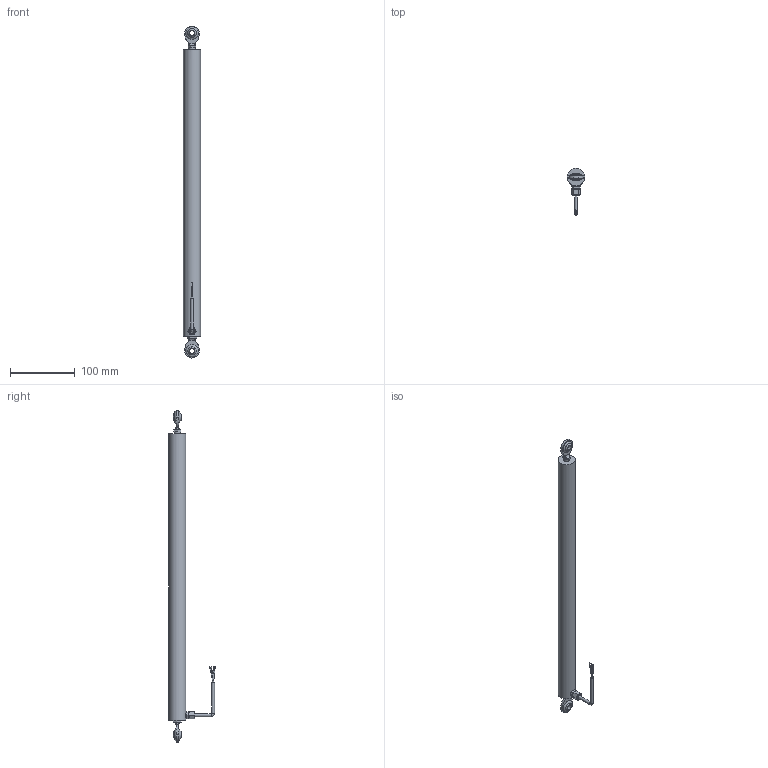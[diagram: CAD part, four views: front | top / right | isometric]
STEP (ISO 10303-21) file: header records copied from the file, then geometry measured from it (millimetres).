
FILE_DESCRIPTION(/* description */ (''),/* implementation_level */ '2;1');
FILE_NAME(/* name */ 'ILPS-27L-350-R-00-50-A (wrapped).step',/* time_stamp */ '2023-09-08T14:06:58-04:00',/* author */ ('TSC_Grant'),/* organization */ (''),/* preprocessor_version */ 'ST-DEVELOPER v19.2',/* originating_system */ 'Autodesk Inventor 2024',/* authorisation */ '');
FILE_SCHEMA (('AUTOMOTIVE_DESIGN { 1 0 10303 214 3 1 1 }'));
Length unit declared in the file: inch
Products named in the file (4): ILPS-27-100-R-00-50-A (wrapped); ILPS-27L-350-R-00-50-A_Simplify_1; ILPS-27L-350-R-00-50-A_Simplify_2; LZ-33 Cable
Assembly tree (3 placements, depth 2):
  ILPS-27-100-R-00-50-A (wrapped)
    ILPS-27L-350-R-00-50-A_Simplify_1
    ILPS-27L-350-R-00-50-A_Simplify_2
    LZ-33 Cable
Bounding box: 26.67 x 72.33 x 514.32 mm (x, y, z)
Volume: 264622.2 mm3; surface area: 64527 mm2
Topology: 3 solids, 3 shells, 148 faces, 338 edges, 222 vertices
Faces by surface type: plane 74, cylinder 53, bspline 8, torus 6, sphere 4, cone 3
Full cylindrical faces by diameter (mm): 0.635 x4, 0.762 x4, 4.369 x3, 4.572 x2, 8 x2, 8.712 x2, 9.398 x2, 10.999 x1, 26.67 x1
Entity records: 4990 total; most frequent: CARTESIAN_POINT 1191, DIRECTION 738, ORIENTED_EDGE 674, EDGE_CURVE 337, AXIS2_PLACEMENT_3D 297, VERTEX_POINT 222, EDGE_LOOP 179, STYLED_ITEM 151
